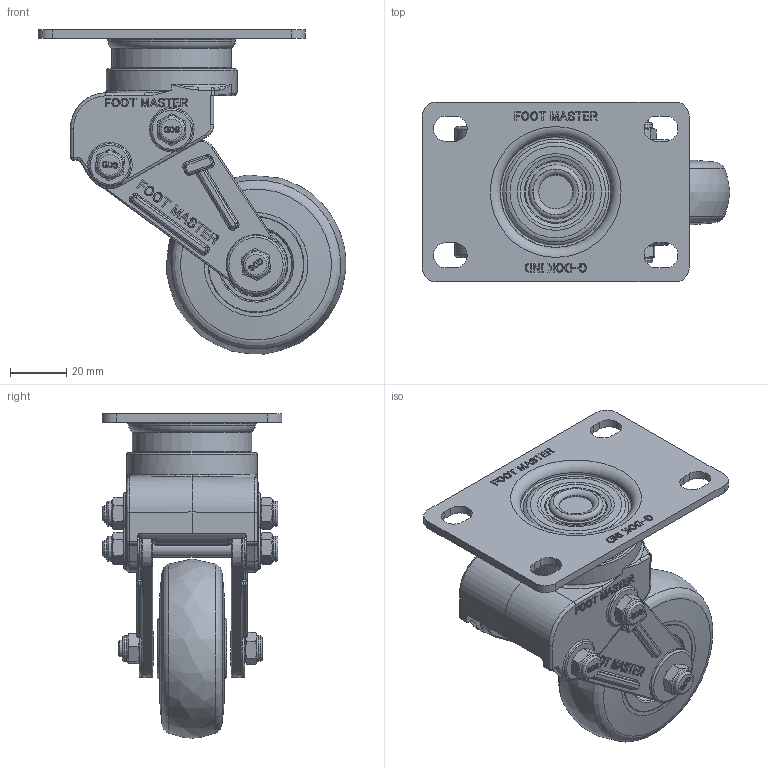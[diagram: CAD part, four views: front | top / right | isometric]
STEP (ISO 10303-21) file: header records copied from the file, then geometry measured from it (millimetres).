
FILE_DESCRIPTION(/* description */ (''),/* implementation_level */ '2;1');
FILE_NAME(/* name */ 'C:\Users\admin\Desktop\JYS\개발품\상세설계_20220328\홈페이지용 도면\GDS-65-ARF-EUS-PUS.stp',/* time_stamp */ '2023-03-08T15:52:54+09:00',/* author */ ('admin'),/* organization */ (''),/* preprocessor_version */ 'ST-DEVELOPER v18.1',/* originating_system */ 'Autodesk Inventor 2021',/* authorisation */ '');
FILE_SCHEMA (('AUTOMOTIVE_DESIGN { 1 0 10303 214 3 1 1 }'));
Products named in the file (1): GDS-65_ARF_(US)_REV01_Shrinkwrap_1
Bounding box: 109.45 x 64 x 115.38 mm (x, y, z)
Volume: 156925.6 mm3; surface area: 54563.8 mm2
Topology: 1 solids, 1 shells, 1981 faces, 5209 edges, 3347 vertices
Faces by surface type: plane 773, bspline 658, cylinder 267, cone 151, torus 116, sphere 16
Full cylindrical faces by diameter (mm): 6 x5, 8.8 x3, 9 x6, 12 x1, 17.216 x2, 18 x1, 19.3 x1, 20 x2, 22 x2, 22.784 x2, 42.5 x1, 46.5 x1
Entity records: 68512 total; most frequent: CARTESIAN_POINT 21685, ORIENTED_EDGE 10394, DIRECTION 7511, EDGE_CURVE 5197, VERTEX_POINT 3347, LINE 2551, VECTOR 2551, AXIS2_PLACEMENT_3D 2480
